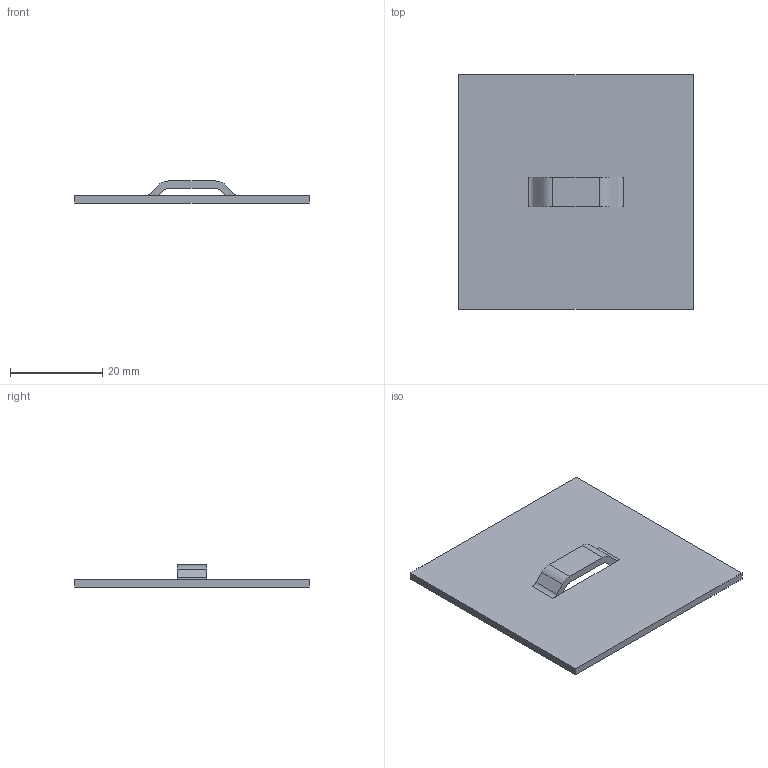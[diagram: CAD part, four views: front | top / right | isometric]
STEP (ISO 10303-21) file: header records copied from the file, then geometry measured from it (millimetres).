
FILE_DESCRIPTION((''),'1');
FILE_NAME('C:/Users/robertnolte/Desktop/WT#237506-10.stp','2012-03-28T17:30:15',(''),(''),'Spatial Interop R21 SP3','Kubotek KeyCreator 2011 V10.5.0 (24766)',' ');
FILE_SCHEMA(('CONFIG_CONTROL_DESIGN'));
Length unit declared in the file: inch
Products named in the file (1): 1
Bounding box: 50.8 x 50.8 x 4.78 mm (x, y, z)
Volume: 4152.1 mm3; surface area: 5627.1 mm2
Topology: 1 solids, 1 shells, 24 faces, 68 edges, 44 vertices
Faces by surface type: plane 16, cylinder 8
Entity records: 828 total; most frequent: CARTESIAN_POINT 137, ORIENTED_EDGE 136, DIRECTION 134, EDGE_CURVE 68, LINE 52, VECTOR 52, VERTEX_POINT 44, AXIS2_PLACEMENT_3D 41
